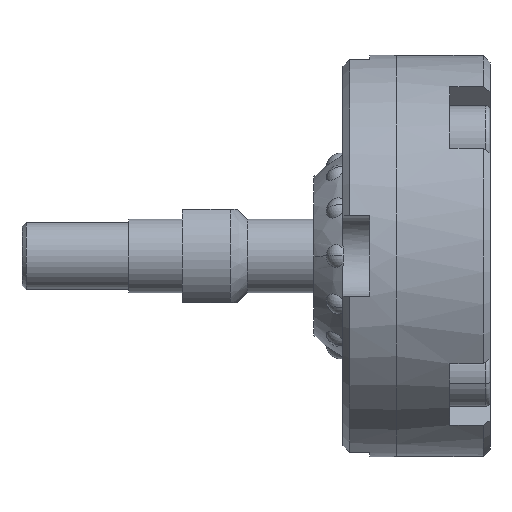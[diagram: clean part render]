
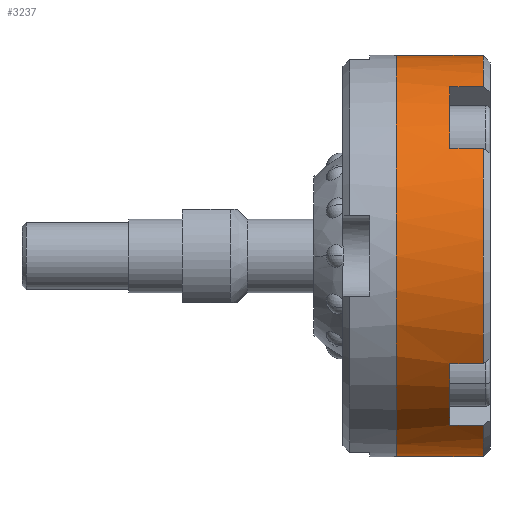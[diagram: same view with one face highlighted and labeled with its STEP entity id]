
A CAD part, front view. The second image highlights one B-rep face of the part: STEP entity #3237.
In plain terms, the highlighted cylindrical face has radius 15 mm (diameter 30 mm), a partial arc.
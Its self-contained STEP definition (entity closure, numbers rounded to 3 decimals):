
#140 = CARTESIAN_POINT ( 'NONE',  ( 4., -12.653, -8.057 ) ) ;
#141 = CARTESIAN_POINT ( 'NONE',  ( 4., -8.057, -12.653 ) ) ;
#144 = CARTESIAN_POINT ( 'NONE',  ( 6.5, -8.057, -12.653 ) ) ;
#346 = CARTESIAN_POINT ( 'NONE',  ( 6.5, 0., 0. ) ) ;
#347 = DIRECTION ( 'NONE',  ( -1., 0., 0. ) ) ;
#348 = DIRECTION ( 'NONE',  ( 0., 0., 1. ) ) ;
#366 = CARTESIAN_POINT ( 'NONE',  ( 4., -12.653, 8.057 ) ) ;
#367 = DIRECTION ( 'NONE',  ( 1., 0., 0. ) ) ;
#382 = CARTESIAN_POINT ( 'NONE',  ( 4., 0., 0. ) ) ;
#383 = DIRECTION ( 'NONE',  ( 1., 0., 0. ) ) ;
#384 = DIRECTION ( 'NONE',  ( 0., 0., -1. ) ) ;
#1119 = AXIS2_PLACEMENT_3D ( 'NONE', #346, #347, #348 ) ;
#1125 = AXIS2_PLACEMENT_3D ( 'NONE', #382, #383, #384 ) ;
#1214 = EDGE_CURVE ( 'NONE', #3211, #3193, #5277, .T. ) ;
#1245 = EDGE_CURVE ( 'NONE', #8421, #8422, #3753, .T. ) ;
#1249 = EDGE_CURVE ( 'NONE', #8422, #8425, #3760, .T. ) ;
#1252 = EDGE_CURVE ( 'NONE', #3176, #8425, #3765, .T. ) ;
#1253 = EDGE_CURVE ( 'NONE', #8421, #3202, #3766, .T. ) ;
#1254 = EDGE_CURVE ( 'NONE', #3177, #3178, #3774, .T. ) ;
#1522 = AXIS2_PLACEMENT_3D ( 'NONE', #9840, #9841, #9842 ) ;
#2316 = CARTESIAN_POINT ( 'NONE',  ( 0., 0., 0. ) ) ;
#2317 = DIRECTION ( 'NONE',  ( -1., 0., 0. ) ) ;
#2318 = DIRECTION ( 'NONE',  ( 0., 0., 1. ) ) ;
#3176 = VERTEX_POINT ( 'NONE', #7616 ) ;
#3177 = VERTEX_POINT ( 'NONE', #7617 ) ;
#3178 = VERTEX_POINT ( 'NONE', #7618 ) ;
#3179 = VERTEX_POINT ( 'NONE', #7619 ) ;
#3193 = VERTEX_POINT ( 'NONE', #7633 ) ;
#3202 = VERTEX_POINT ( 'NONE', #7642 ) ;
#3203 = VERTEX_POINT ( 'NONE', #7643 ) ;
#3208 = VERTEX_POINT ( 'NONE', #7648 ) ;
#3211 = VERTEX_POINT ( 'NONE', #7651 ) ;
#3237 = ADVANCED_FACE ( 'NONE', ( #3992 ), #3991, .T. ) ;
#3626 = CIRCLE ( 'NONE', #1125, 15. ) ;
#3753 = CIRCLE ( 'NONE', #9527, 15. ) ;
#3760 = LINE ( 'NONE', #4611, #3764 ) ;
#3764 = VECTOR ( 'NONE', #4612, 1000. ) ;
#3765 = CIRCLE ( 'NONE', #9529, 15. ) ;
#3766 = LINE ( 'NONE', #4623, #3771 ) ;
#3771 = VECTOR ( 'NONE', #4624, 1000. ) ;
#3774 = CIRCLE ( 'NONE', #9530, 15. ) ;
#3991 = CYLINDRICAL_SURFACE ( 'NONE', #7881, 15. ) ;
#3992 = FACE_OUTER_BOUND ( 'NONE', #5339, .T. ) ;
#4020 = VECTOR ( 'NONE', #367, 1000. ) ;
#4274 = LINE ( 'NONE', #366, #4020 ) ;
#4280 = CIRCLE ( 'NONE', #1119, 15. ) ;
#4519 = CARTESIAN_POINT ( 'NONE',  ( 4., -8.057, 12.653 ) ) ;
#4520 = DIRECTION ( 'NONE',  ( 1., 0., 0. ) ) ;
#4602 = CARTESIAN_POINT ( 'NONE',  ( 4., 0., 0. ) ) ;
#4603 = DIRECTION ( 'NONE',  ( 1., 0., 0. ) ) ;
#4604 = DIRECTION ( 'NONE',  ( 0., 1., 0. ) ) ;
#4611 = CARTESIAN_POINT ( 'NONE',  ( 4., -8.057, -12.653 ) ) ;
#4612 = DIRECTION ( 'NONE',  ( 1., 0., 0. ) ) ;
#4620 = CARTESIAN_POINT ( 'NONE',  ( 6.5, 0., 0. ) ) ;
#4621 = DIRECTION ( 'NONE',  ( -1., 0., 0. ) ) ;
#4622 = DIRECTION ( 'NONE',  ( 0., 0., 1. ) ) ;
#4623 = CARTESIAN_POINT ( 'NONE',  ( 4., -12.653, -8.057 ) ) ;
#4624 = DIRECTION ( 'NONE',  ( 1., 0., 0. ) ) ;
#4625 = CARTESIAN_POINT ( 'NONE',  ( 0., 0., 0. ) ) ;
#4626 = DIRECTION ( 'NONE',  ( -1., 0., 0. ) ) ;
#4627 = DIRECTION ( 'NONE',  ( 0., 0., 1. ) ) ;
#4751 = VECTOR ( 'NONE', #9804, 1000. ) ;
#4752 = LINE ( 'NONE', #9803, #4751 ) ;
#4758 = VECTOR ( 'NONE', #9799, 1000. ) ;
#4759 = LINE ( 'NONE', #9798, #4758 ) ;
#4905 = CIRCLE ( 'NONE', #1522, 15. ) ;
#5277 = LINE ( 'NONE', #4519, #5278 ) ;
#5278 = VECTOR ( 'NONE', #4520, 1000. ) ;
#5339 = EDGE_LOOP ( 'NONE', ( #6867, #7142, #7049, #7014, #6931, #7024, #7057, #7056, #6934, #7183, #7182, #7181 ) ) ;
#6867 = ORIENTED_EDGE ( 'NONE', *, *, #9207, .F. ) ;
#6931 = ORIENTED_EDGE ( 'NONE', *, *, #1253, .T. ) ;
#6934 = ORIENTED_EDGE ( 'NONE', *, *, #1214, .T. ) ;
#7014 = ORIENTED_EDGE ( 'NONE', *, *, #1245, .F. ) ;
#7024 = ORIENTED_EDGE ( 'NONE', *, *, #9008, .T. ) ;
#7049 = ORIENTED_EDGE ( 'NONE', *, *, #1249, .F. ) ;
#7056 = ORIENTED_EDGE ( 'NONE', *, *, #9021, .F. ) ;
#7057 = ORIENTED_EDGE ( 'NONE', *, *, #9015, .F. ) ;
#7142 = ORIENTED_EDGE ( 'NONE', *, *, #1252, .T. ) ;
#7181 = ORIENTED_EDGE ( 'NONE', *, *, #1254, .F. ) ;
#7182 = ORIENTED_EDGE ( 'NONE', *, *, #9209, .T. ) ;
#7183 = ORIENTED_EDGE ( 'NONE', *, *, #9222, .T. ) ;
#7616 = CARTESIAN_POINT ( 'NONE',  ( 6.5, 0., -15. ) ) ;
#7617 = CARTESIAN_POINT ( 'NONE',  ( 0., 0., -15. ) ) ;
#7618 = CARTESIAN_POINT ( 'NONE',  ( 0., 0., 15. ) ) ;
#7619 = CARTESIAN_POINT ( 'NONE',  ( 6.5, 0., 15. ) ) ;
#7633 = CARTESIAN_POINT ( 'NONE',  ( 6.5, -8.057, 12.653 ) ) ;
#7642 = CARTESIAN_POINT ( 'NONE',  ( 6.5, -12.653, -8.057 ) ) ;
#7643 = CARTESIAN_POINT ( 'NONE',  ( 6.5, -12.653, 8.057 ) ) ;
#7648 = CARTESIAN_POINT ( 'NONE',  ( 4., -12.653, 8.057 ) ) ;
#7651 = CARTESIAN_POINT ( 'NONE',  ( 4., -8.057, 12.653 ) ) ;
#7881 = AXIS2_PLACEMENT_3D ( 'NONE', #2316, #2317, #2318 ) ;
#8421 = VERTEX_POINT ( 'NONE', #140 ) ;
#8422 = VERTEX_POINT ( 'NONE', #141 ) ;
#8425 = VERTEX_POINT ( 'NONE', #144 ) ;
#9008 = EDGE_CURVE ( 'NONE', #3202, #3203, #4280, .T. ) ;
#9015 = EDGE_CURVE ( 'NONE', #3208, #3203, #4274, .T. ) ;
#9021 = EDGE_CURVE ( 'NONE', #3211, #3208, #3626, .T. ) ;
#9207 = EDGE_CURVE ( 'NONE', #3176, #3177, #4759, .T. ) ;
#9209 = EDGE_CURVE ( 'NONE', #3179, #3178, #4752, .T. ) ;
#9222 = EDGE_CURVE ( 'NONE', #3193, #3179, #4905, .T. ) ;
#9527 = AXIS2_PLACEMENT_3D ( 'NONE', #4602, #4603, #4604 ) ;
#9529 = AXIS2_PLACEMENT_3D ( 'NONE', #4620, #4621, #4622 ) ;
#9530 = AXIS2_PLACEMENT_3D ( 'NONE', #4625, #4626, #4627 ) ;
#9798 = CARTESIAN_POINT ( 'NONE',  ( 0., 0., -15. ) ) ;
#9799 = DIRECTION ( 'NONE',  ( -1., 0., 0. ) ) ;
#9803 = CARTESIAN_POINT ( 'NONE',  ( 0., 0., 15. ) ) ;
#9804 = DIRECTION ( 'NONE',  ( -1., 0., 0. ) ) ;
#9840 = CARTESIAN_POINT ( 'NONE',  ( 6.5, 0., 0. ) ) ;
#9841 = DIRECTION ( 'NONE',  ( -1., 0., 0. ) ) ;
#9842 = DIRECTION ( 'NONE',  ( 0., 0., 1. ) ) ;
